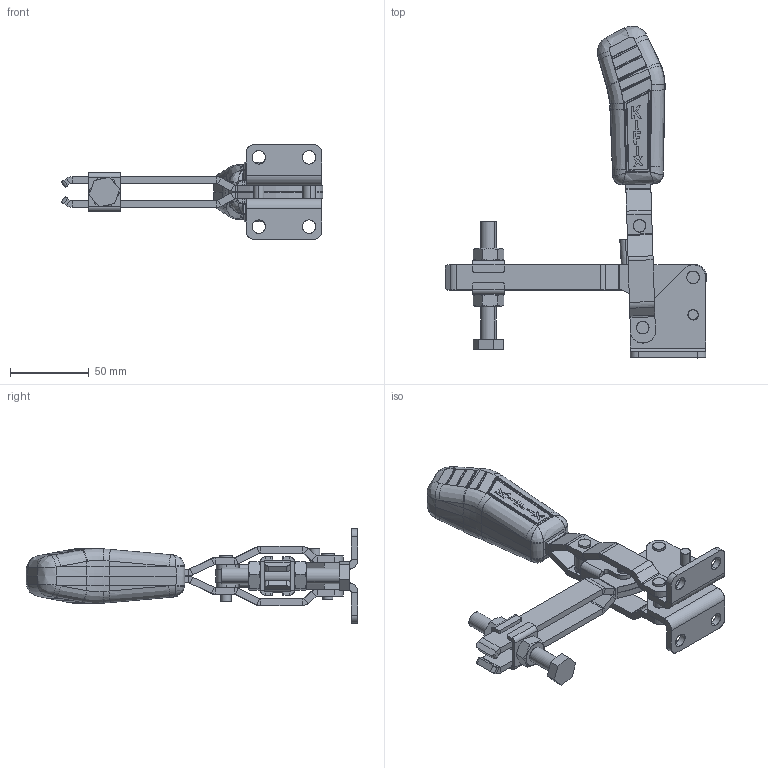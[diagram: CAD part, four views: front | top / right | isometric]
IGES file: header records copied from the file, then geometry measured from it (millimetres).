
Start section: SolidWorks IGES file using analytic representation for surfaces
Global section: file name: C:\Projetos\Grampos\KF-011\KF-011 DBL\KF-011 DBL.IGS; native system: SolidWorks 2013; preprocessor: SolidWorks 2013; author: Ricardo; date: 140728.094533; units: millimetre
Bounding box: 166.22 x 210.97 x 60 mm (x, y, z)
Surface area: 75363.7 mm2 (no closed solid volume)
Topology: 0 solids, 0 shells, 846 faces, 8912 edges, 8881 vertices
Faces by surface type: bspline 532, revolution 314
